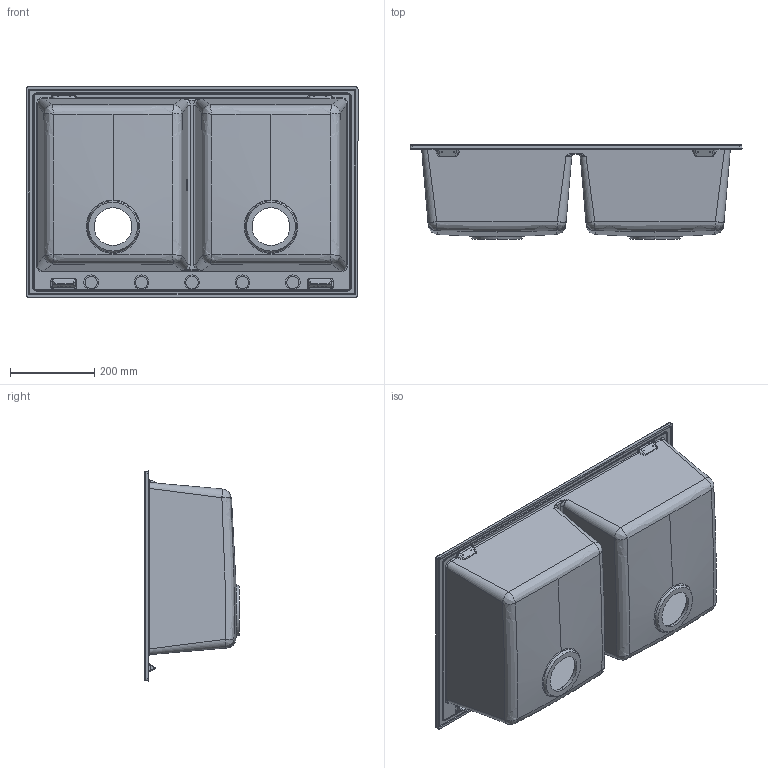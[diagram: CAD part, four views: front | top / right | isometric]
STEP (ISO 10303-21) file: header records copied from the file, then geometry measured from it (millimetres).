
FILE_DESCRIPTION (( 'STEP AP203' ), '1' );
FILE_NAME ('Quadra350.STEP', '2019-03-20T13:10:01', ( '' ), ( '' ), 'SwSTEP 2.0', 'SolidWorks 2013', '' );
FILE_SCHEMA (( 'CONFIG_CONTROL_DESIGN' ));
Length unit declared in the file: millimetre
Products named in the file (1): Quadra350
Bounding box: 790 x 225.3 x 500 mm (x, y, z)
Volume: 7182233 mm3; surface area: 1787335 mm2
Topology: 1 solids, 1 shells, 464 faces, 1105 edges, 613 vertices
Faces by surface type: bspline 204, cylinder 142, plane 61, torus 24, cone 20, sphere 13
Entity records: 22165 total; most frequent: CARTESIAN_POINT 13244, ORIENTED_EDGE 2096, DIRECTION 1544, EDGE_CURVE 1048, AXIS2_PLACEMENT_3D 647, VERTEX_POINT 609, EDGE_LOOP 493, FACE_OUTER_BOUND 464
